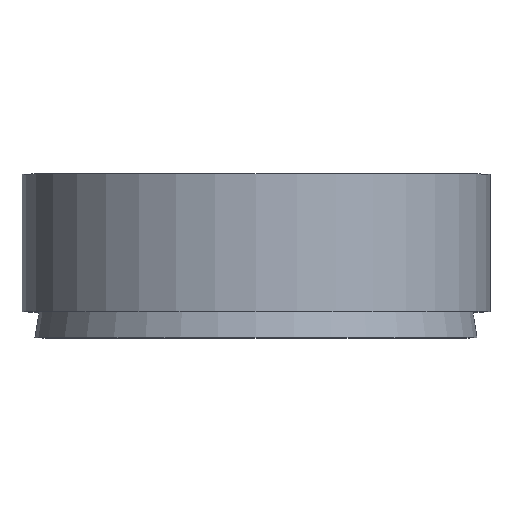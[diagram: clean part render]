
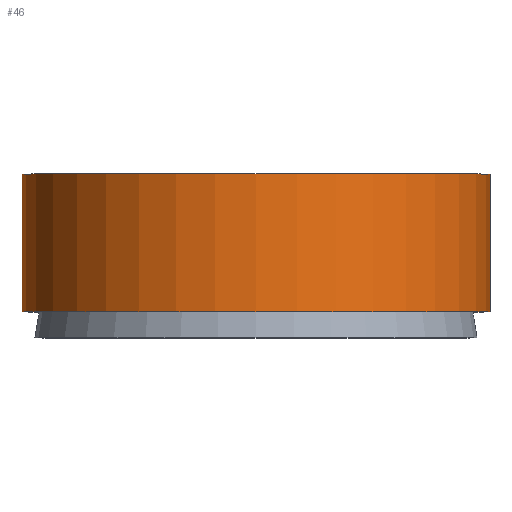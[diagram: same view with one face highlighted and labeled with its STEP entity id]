
A CAD part, top view. The second image highlights one B-rep face of the part: STEP entity #46.
In plain terms, the highlighted cylindrical face has radius 9 mm (diameter 18 mm), a full revolution.
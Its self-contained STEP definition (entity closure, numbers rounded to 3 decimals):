
#46 = ADVANCED_FACE( '', ( #93, #94 ), #95, .T. );
#93 = FACE_OUTER_BOUND( '', #132, .T. );
#94 = FACE_OUTER_BOUND( '', #133, .T. );
#95 = CYLINDRICAL_SURFACE( '', #134, 9. );
#132 = EDGE_LOOP( '', ( #179 ) );
#133 = EDGE_LOOP( '', ( #180 ) );
#134 = AXIS2_PLACEMENT_3D( '', #181, #182, #183 );
#179 = ORIENTED_EDGE( '', *, *, #189, .F. );
#180 = ORIENTED_EDGE( '', *, *, #198, .T. );
#181 = CARTESIAN_POINT( '', ( 0., -60., 0. ) );
#182 = DIRECTION( '', ( 0., 1., 0. ) );
#183 = DIRECTION( '', ( 0., 0., -1. ) );
#189 = EDGE_CURVE( '', #208, #208, #209, .T. );
#198 = EDGE_CURVE( '', #221, #221, #222, .T. );
#208 = VERTEX_POINT( '', #232 );
#209 = CIRCLE( '', #233, 9. );
#221 = VERTEX_POINT( '', #245 );
#222 = CIRCLE( '', #246, 9. );
#232 = CARTESIAN_POINT( '', ( 0., 1., -9. ) );
#233 = AXIS2_PLACEMENT_3D( '', #257, #258, #259 );
#245 = CARTESIAN_POINT( '', ( 0., 6.3, -9. ) );
#246 = AXIS2_PLACEMENT_3D( '', #269, #270, #271 );
#257 = CARTESIAN_POINT( '', ( 0., 1., 0. ) );
#258 = DIRECTION( '', ( 0., -1., 0. ) );
#259 = DIRECTION( '', ( 0., 0., -1. ) );
#269 = CARTESIAN_POINT( '', ( 0., 6.3, 0. ) );
#270 = DIRECTION( '', ( 0., -1., 0. ) );
#271 = DIRECTION( '', ( 0., 0., -1. ) );
